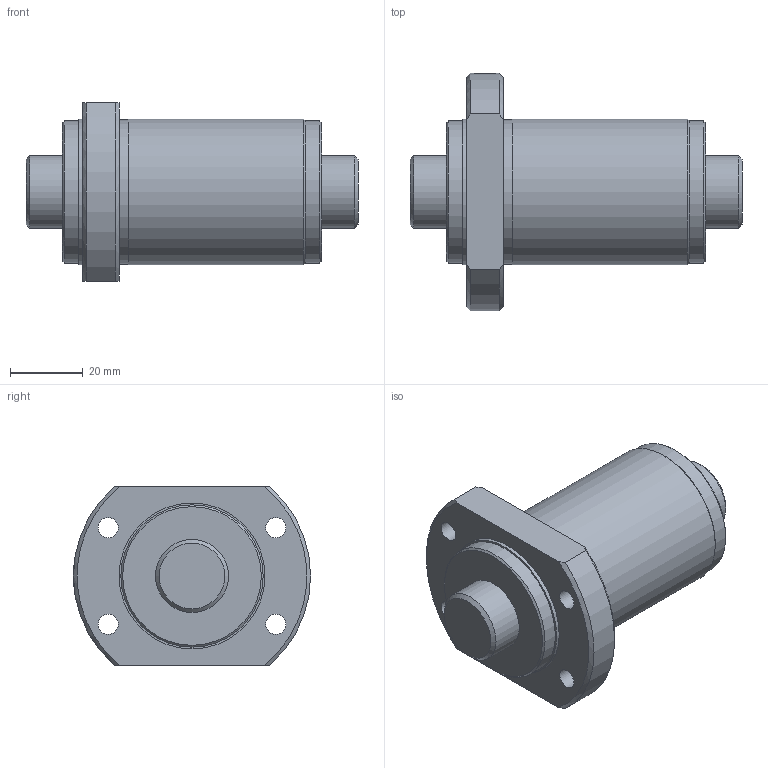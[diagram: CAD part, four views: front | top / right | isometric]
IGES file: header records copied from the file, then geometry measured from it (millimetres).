
Start section: Data from Parasolid IGES Translator 26.0.171, Copyright(c) 2006 Siemens PLM Software. All Rights Reserved.
Global section: file name: SBK2030-3.6RRG0+91LC0(0000).igs; native system: By Siemens PLM Incorporated; preprocessor: XPlus GENERIC/IGES 26.0.171; author: Noname; organization: Noname; date: 20240528.111939; units: millimetre
Bounding box: 91 x 65 x 49 mm (x, y, z)
Surface area: 25936.7 mm2 (no closed solid volume)
Topology: 0 solids, 0 shells, 35 faces, 153 edges, 126 vertices
Faces by surface type: revolution 25, extrusion 10
